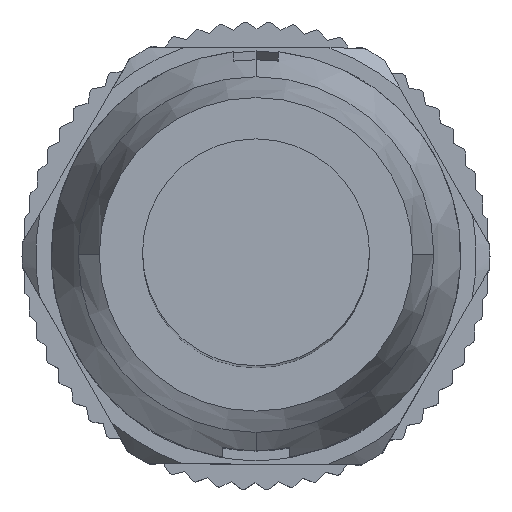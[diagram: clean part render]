
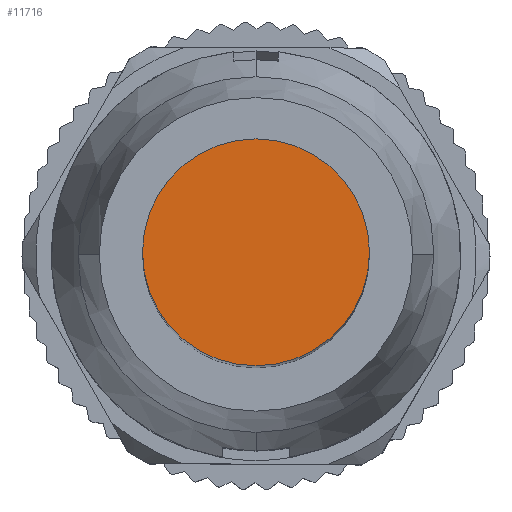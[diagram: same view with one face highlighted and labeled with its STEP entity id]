
A CAD part, top view. The second image highlights one B-rep face of the part: STEP entity #11716.
In plain terms, the highlighted planar face has unit normal (0, 0, 1).
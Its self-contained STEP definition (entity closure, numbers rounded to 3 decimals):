
#3046=CARTESIAN_POINT('',(0.,0.,100.3));
#3047=DIRECTION('',(0.,0.,1.));
#3048=DIRECTION('',(-1.,0.,0.));
#3049=AXIS2_PLACEMENT_3D('',#3046,#3047,#3048);
#3051=CARTESIAN_POINT('',(0.,0.,100.3));
#3052=DIRECTION('',(0.,0.,1.));
#3053=DIRECTION('',(1.,0.,0.));
#3054=AXIS2_PLACEMENT_3D('',#3051,#3052,#3053);
#6894=CARTESIAN_POINT('',(4.85,0.,100.3));
#6896=VERTEX_POINT('',#6894);
#6925=CARTESIAN_POINT('',(-4.85,0.,100.3));
#6927=VERTEX_POINT('',#6925);
#11707=CARTESIAN_POINT('',(0.,0.,100.3));
#11708=DIRECTION('',(0.,0.,1.));
#11709=DIRECTION('',(1.,0.,0.));
#11710=AXIS2_PLACEMENT_3D('',#11707,#11708,#11709);
#11711=PLANE('',#11710);
#11712=ORIENTED_EDGE('',*,*,#11689,.F.);
#11713=ORIENTED_EDGE('',*,*,#11699,.F.);
#11714=EDGE_LOOP('',(#11712,#11713));
#11715=FACE_OUTER_BOUND('',#11714,.F.);
#11716=ADVANCED_FACE('',(#11715),#11711,.T.);
#3050=CIRCLE('',#3049,4.85);
#3055=CIRCLE('',#3054,4.85);
#11689=EDGE_CURVE('',#6927,#6896,#3050,.T.);
#11699=EDGE_CURVE('',#6896,#6927,#3055,.T.);
